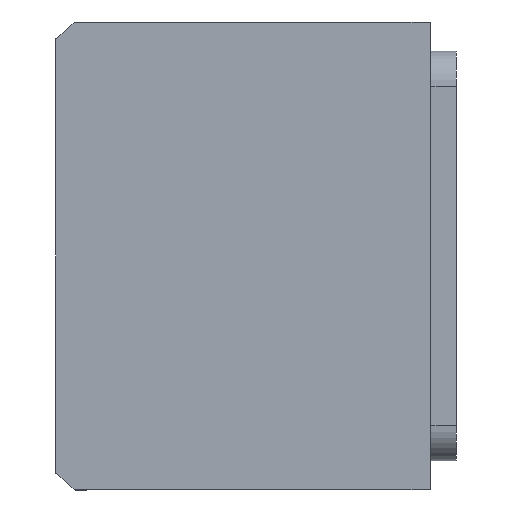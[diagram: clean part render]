
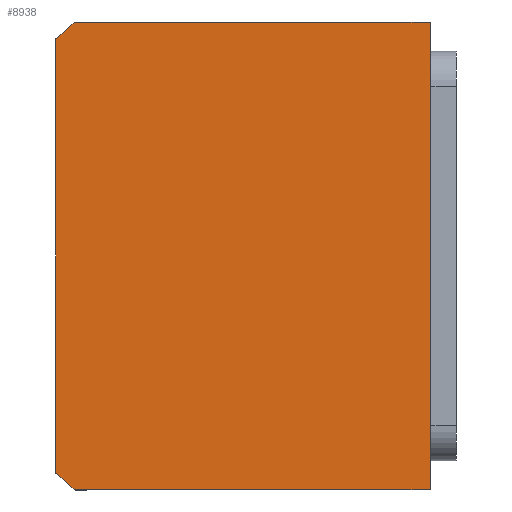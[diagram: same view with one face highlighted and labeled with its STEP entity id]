
A CAD part, front view. The second image highlights one B-rep face of the part: STEP entity #8938.
In plain terms, the highlighted planar face has unit normal (0, -1, 0) as drawn and (0, 0, -1) by its records, which use the part's own axes.
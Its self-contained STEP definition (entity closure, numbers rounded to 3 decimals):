
#449 = CARTESIAN_POINT ( 'NONE',  ( -40., -28.639, 0. ) ) ;
#745 = DIRECTION ( 'NONE',  ( 1., 0., 0. ) ) ;
#796 = CARTESIAN_POINT ( 'NONE',  ( 0., 0., 0. ) ) ;
#842 = DIRECTION ( 'NONE',  ( 0., 0., 1. ) ) ;
#1119 = DIRECTION ( 'NONE',  ( 1., 0., 0. ) ) ;
#1138 = LINE ( 'NONE', #6702, #7493 ) ;
#1171 = ORIENTED_EDGE ( 'NONE', *, *, #1495, .F. ) ;
#1380 = VERTEX_POINT ( 'NONE', #4213 ) ;
#1495 = EDGE_CURVE ( 'NONE', #1380, #4570, #6218, .T. ) ;
#1608 = DIRECTION ( 'NONE',  ( 0., 0., 1. ) ) ;
#1866 = CARTESIAN_POINT ( 'NONE',  ( 40., 32., 0. ) ) ;
#1991 = DIRECTION ( 'NONE',  ( 0., -1., 0. ) ) ;
#2045 = VERTEX_POINT ( 'NONE', #7709 ) ;
#2170 = EDGE_LOOP ( 'NONE', ( #3920, #5277, #2185, #1171, #2252, #9914 ) ) ;
#2185 = ORIENTED_EDGE ( 'NONE', *, *, #8705, .F. ) ;
#2252 = ORIENTED_EDGE ( 'NONE', *, *, #9579, .F. ) ;
#2387 = FACE_OUTER_BOUND ( 'NONE', #2170, .T. ) ;
#2551 = VERTEX_POINT ( 'NONE', #5974 ) ;
#3559 = EDGE_CURVE ( 'NONE', #8385, #2551, #4311, .T. ) ;
#3849 = VECTOR ( 'NONE', #1991, 1000. ) ;
#3920 = ORIENTED_EDGE ( 'NONE', *, *, #3559, .F. ) ;
#4054 = CARTESIAN_POINT ( 'NONE',  ( 40., 32., 0. ) ) ;
#4213 = CARTESIAN_POINT ( 'NONE',  ( 40., -28.639, 0. ) ) ;
#4311 = CIRCLE ( 'NONE', #5190, 51. ) ;
#4570 = VERTEX_POINT ( 'NONE', #4054 ) ;
#4770 = VECTOR ( 'NONE', #10013, 1000. ) ;
#5040 = AXIS2_PLACEMENT_3D ( 'NONE', #796, #1608, #7179 ) ;
#5190 = AXIS2_PLACEMENT_3D ( 'NONE', #5622, #842, #6429 ) ;
#5277 = ORIENTED_EDGE ( 'NONE', *, *, #5950, .F. ) ;
#5542 = DIRECTION ( 'NONE',  ( 0., 0., 1. ) ) ;
#5622 = CARTESIAN_POINT ( 'NONE',  ( 0., 3., 0. ) ) ;
#5715 = VECTOR ( 'NONE', #5924, 1000. ) ;
#5716 = LINE ( 'NONE', #6771, #3849 ) ;
#5924 = DIRECTION ( 'NONE',  ( 0., 1., 0. ) ) ;
#5950 = EDGE_CURVE ( 'NONE', #2045, #8385, #5716, .T. ) ;
#5974 = CARTESIAN_POINT ( 'NONE',  ( -37.094, -32., 0. ) ) ;
#6006 = VERTEX_POINT ( 'NONE', #8693 ) ;
#6218 = LINE ( 'NONE', #1866, #5715 ) ;
#6429 = DIRECTION ( 'NONE',  ( 1., 0., 0. ) ) ;
#6449 = AXIS2_PLACEMENT_3D ( 'NONE', #10302, #5542, #745 ) ;
#6702 = CARTESIAN_POINT ( 'NONE',  ( -40., -32., 0. ) ) ;
#6771 = CARTESIAN_POINT ( 'NONE',  ( -40., 32., 0. ) ) ;
#6883 = LINE ( 'NONE', #9224, #4770 ) ;
#7179 = DIRECTION ( 'NONE',  ( 1., 0., 0. ) ) ;
#7493 = VECTOR ( 'NONE', #1119, 1000. ) ;
#7709 = CARTESIAN_POINT ( 'NONE',  ( -40., 32., 0. ) ) ;
#8222 = EDGE_CURVE ( 'NONE', #2551, #6006, #1138, .T. ) ;
#8385 = VERTEX_POINT ( 'NONE', #449 ) ;
#8693 = CARTESIAN_POINT ( 'NONE',  ( 37.094, -32., 0. ) ) ;
#8705 = EDGE_CURVE ( 'NONE', #4570, #2045, #6883, .T. ) ;
#8938 = ADVANCED_FACE ( 'NONE', ( #2387 ), #9538, .F. ) ;
#9224 = CARTESIAN_POINT ( 'NONE',  ( -40., 32., 0. ) ) ;
#9505 = CIRCLE ( 'NONE', #6449, 51. ) ;
#9538 = PLANE ( 'NONE',  #5040 ) ;
#9579 = EDGE_CURVE ( 'NONE', #6006, #1380, #9505, .T. ) ;
#9914 = ORIENTED_EDGE ( 'NONE', *, *, #8222, .F. ) ;
#10013 = DIRECTION ( 'NONE',  ( -1., 0., 0. ) ) ;
#10302 = CARTESIAN_POINT ( 'NONE',  ( 0., 3., 0. ) ) ;
